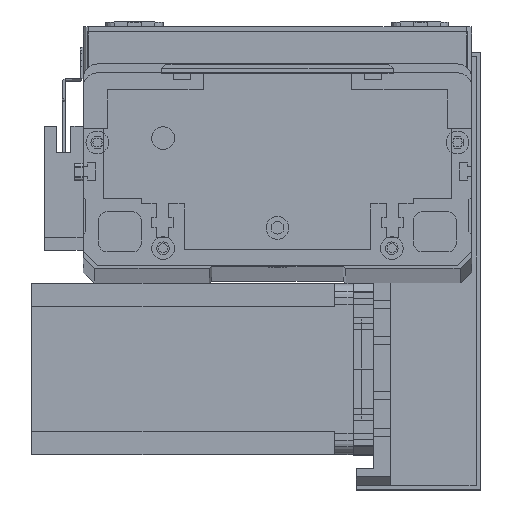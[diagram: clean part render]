
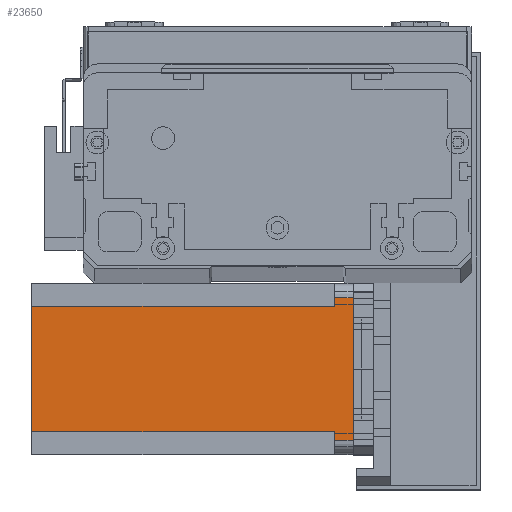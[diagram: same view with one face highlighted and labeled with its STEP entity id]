
A CAD part, top view. The second image highlights one B-rep face of the part: STEP entity #23650.
In plain terms, the highlighted planar face has unit normal (0, 0, 1) as drawn and (0, -1, 0) by its records, which use the part's own axes.
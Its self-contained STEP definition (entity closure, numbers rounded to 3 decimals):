
#308 = DIRECTION ( 'NONE',  ( 1., 0., 0. ) ) ;
#375 = ORIENTED_EDGE ( 'NONE', *, *, #23092, .F. ) ;
#490 = EDGE_CURVE ( 'NONE', #26377, #8775, #15528, .T. ) ;
#763 = DIRECTION ( 'NONE',  ( 1., 0., 0. ) ) ;
#2624 = EDGE_CURVE ( 'NONE', #25653, #13974, #15675, .T. ) ;
#2935 = VERTEX_POINT ( 'NONE', #26859 ) ;
#3030 = DIRECTION ( 'NONE',  ( 1., 0., 0. ) ) ;
#4352 = VECTOR ( 'NONE', #3030, 1000. ) ;
#4661 = DIRECTION ( 'NONE',  ( 0., -1., 0. ) ) ;
#4678 = ORIENTED_EDGE ( 'NONE', *, *, #17526, .F. ) ;
#4756 = VECTOR ( 'NONE', #29686, 1000. ) ;
#5098 = LINE ( 'NONE', #26865, #4352 ) ;
#5126 = ORIENTED_EDGE ( 'NONE', *, *, #7428, .F. ) ;
#5202 = VERTEX_POINT ( 'NONE', #28668 ) ;
#5324 = CARTESIAN_POINT ( 'NONE',  ( 8., 0., -6.5 ) ) ;
#6385 = DIRECTION ( 'NONE',  ( 0., 0., 1. ) ) ;
#6773 = DIRECTION ( 'NONE',  ( 0., 0., -1. ) ) ;
#7095 = CARTESIAN_POINT ( 'NONE',  ( 5., 0., -6.5 ) ) ;
#7250 = ORIENTED_EDGE ( 'NONE', *, *, #16598, .T. ) ;
#7428 = EDGE_CURVE ( 'NONE', #25653, #20865, #5098, .T. ) ;
#7684 = FACE_OUTER_BOUND ( 'NONE', #8082, .T. ) ;
#8067 = EDGE_CURVE ( 'NONE', #5202, #24632, #26749, .T. ) ;
#8082 = EDGE_LOOP ( 'NONE', ( #15062, #26768, #5126, #23745, #4678, #30718, #7250, #375 ) ) ;
#8775 = VERTEX_POINT ( 'NONE', #11831 ) ;
#9177 = VECTOR ( 'NONE', #6385, 1000. ) ;
#9297 = CARTESIAN_POINT ( 'NONE',  ( 8., 0., -112.5 ) ) ;
#10018 = VECTOR ( 'NONE', #308, 1000. ) ;
#10765 = CARTESIAN_POINT ( 'NONE',  ( 55., 0., -6.5 ) ) ;
#11125 = AXIS2_PLACEMENT_3D ( 'NONE', #14182, #4661, #21394 ) ;
#11831 = CARTESIAN_POINT ( 'NONE',  ( 8., 0., -6.5 ) ) ;
#13552 = CARTESIAN_POINT ( 'NONE',  ( 55., 0., 0. ) ) ;
#13974 = VERTEX_POINT ( 'NONE', #7095 ) ;
#13999 = CARTESIAN_POINT ( 'NONE',  ( 52., 0., -112.5 ) ) ;
#14182 = CARTESIAN_POINT ( 'NONE',  ( 0., 0., -112.5 ) ) ;
#15062 = ORIENTED_EDGE ( 'NONE', *, *, #8067, .T. ) ;
#15099 = CARTESIAN_POINT ( 'NONE',  ( 52., 0., -6.5 ) ) ;
#15155 = CARTESIAN_POINT ( 'NONE',  ( 5., 0., -112.5 ) ) ;
#15344 = CARTESIAN_POINT ( 'NONE',  ( 55., 0., -112.5 ) ) ;
#15528 = LINE ( 'NONE', #18633, #9177 ) ;
#15613 = CARTESIAN_POINT ( 'NONE',  ( 5., 0., 0. ) ) ;
#15675 = LINE ( 'NONE', #15155, #22051 ) ;
#16334 = VECTOR ( 'NONE', #6773, 1000. ) ;
#16598 = EDGE_CURVE ( 'NONE', #26377, #2935, #29116, .T. ) ;
#17100 = LINE ( 'NONE', #13999, #16334 ) ;
#17526 = EDGE_CURVE ( 'NONE', #8775, #13974, #25372, .T. ) ;
#18633 = CARTESIAN_POINT ( 'NONE',  ( 8., 0., -112.5 ) ) ;
#18977 = PLANE ( 'NONE',  #11125 ) ;
#19741 = VECTOR ( 'NONE', #22059, 1000. ) ;
#20387 = VECTOR ( 'NONE', #763, 1000. ) ;
#20865 = VERTEX_POINT ( 'NONE', #13552 ) ;
#21394 = DIRECTION ( 'NONE',  ( 0., 0., -1. ) ) ;
#22051 = VECTOR ( 'NONE', #26672, 1000. ) ;
#22059 = DIRECTION ( 'NONE',  ( -1., 0., 0. ) ) ;
#22833 = EDGE_CURVE ( 'NONE', #24632, #20865, #29440, .T. ) ;
#23092 = EDGE_CURVE ( 'NONE', #5202, #2935, #17100, .T. ) ;
#23650 = ADVANCED_FACE ( 'NONE', ( #7684 ), #18977, .T. ) ;
#23745 = ORIENTED_EDGE ( 'NONE', *, *, #2624, .T. ) ;
#24632 = VERTEX_POINT ( 'NONE', #10765 ) ;
#25372 = LINE ( 'NONE', #5324, #19741 ) ;
#25653 = VERTEX_POINT ( 'NONE', #15613 ) ;
#26377 = VERTEX_POINT ( 'NONE', #9297 ) ;
#26672 = DIRECTION ( 'NONE',  ( 0., 0., -1. ) ) ;
#26749 = LINE ( 'NONE', #15099, #20387 ) ;
#26768 = ORIENTED_EDGE ( 'NONE', *, *, #22833, .T. ) ;
#26859 = CARTESIAN_POINT ( 'NONE',  ( 52., 0., -112.5 ) ) ;
#26865 = CARTESIAN_POINT ( 'NONE',  ( 0., 0., 0. ) ) ;
#28668 = CARTESIAN_POINT ( 'NONE',  ( 52., 0., -6.5 ) ) ;
#28978 = CARTESIAN_POINT ( 'NONE',  ( 0., 0., -112.5 ) ) ;
#29116 = LINE ( 'NONE', #28978, #10018 ) ;
#29440 = LINE ( 'NONE', #15344, #4756 ) ;
#29686 = DIRECTION ( 'NONE',  ( 0., 0., 1. ) ) ;
#30718 = ORIENTED_EDGE ( 'NONE', *, *, #490, .F. ) ;
